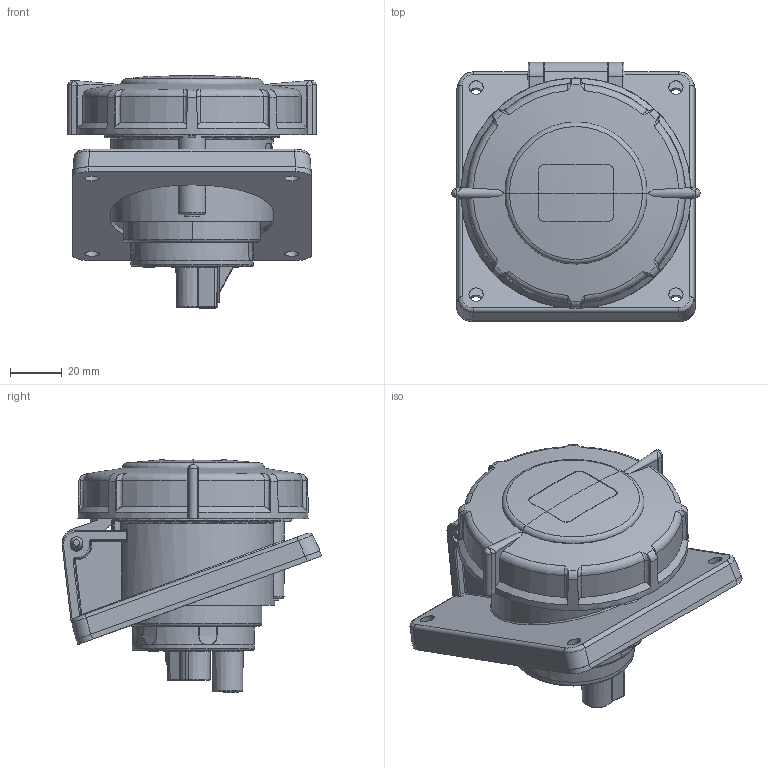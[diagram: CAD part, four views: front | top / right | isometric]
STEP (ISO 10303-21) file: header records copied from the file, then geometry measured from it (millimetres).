
FILE_DESCRIPTION((''),'2;1');
FILE_NAME('1113580_ASM_SW0001','2017-10-27T',('gisse'),('MENNEKES'),'PRO/ENGINEER BY PARAMETRIC TECHNOLOGY CORPORATION, 2015440','PRO/ENGINEER BY PARAMETRIC TECHNOLOGY CORPORATION, 2015440','');
FILE_SCHEMA(('AUTOMOTIVE_DESIGN { 1 0 10303 214 1 1 1 1 }'));
Products named in the file (1): 1113580_ASM_SW0001
Bounding box: 95.7 x 100.04 x 89.84 mm (x, y, z)
Volume: 323659.3 mm3; surface area: 50165.2 mm2
Topology: 1 solids, 1 shells, 1630 faces, 4422 edges, 2847 vertices
Faces by surface type: plane 1008, cylinder 265, bspline 165, torus 102, cone 73, sphere 13, extrusion 4
Entity records: 74953 total; most frequent: CARTESIAN_POINT 21159, ORIENTED_EDGE 8832, DIRECTION 6918, EDGE_CURVE 4416, VERTEX_POINT 2847, AXIS2_PLACEMENT_3D 2404, FILL_AREA_STYLE_COLOUR 2321, FILL_AREA_STYLE 2321
